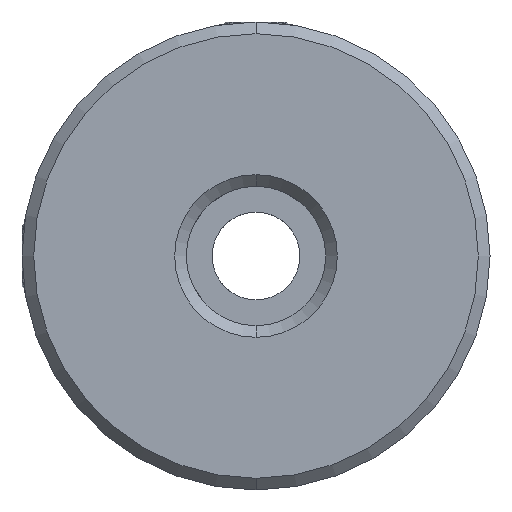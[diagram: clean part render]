
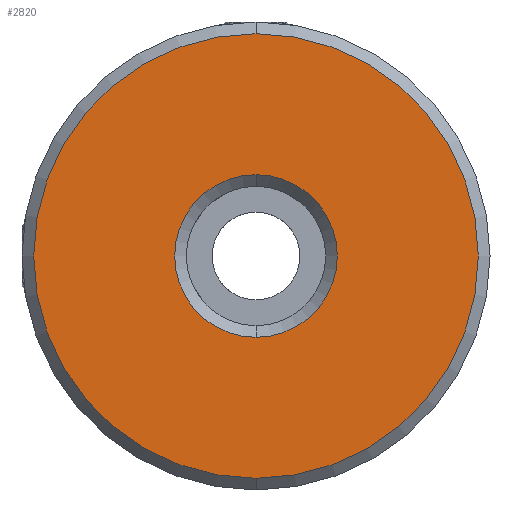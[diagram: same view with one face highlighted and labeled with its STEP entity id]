
A CAD part, front view. The second image highlights one B-rep face of the part: STEP entity #2820.
In plain terms, the highlighted planar face has unit normal (0, -1, 0).
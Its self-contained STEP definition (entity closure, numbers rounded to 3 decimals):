
#239 = DIRECTION ( 'NONE',  ( 0., 0., 1. ) ) ;
#245 = DIRECTION ( 'NONE',  ( 0., 1., 0. ) ) ;
#255 = CIRCLE ( 'NONE', #2714, 15.2 ) ;
#298 = CARTESIAN_POINT ( 'NONE',  ( -10.188, -0.277, 0.046 ) ) ;
#316 = DIRECTION ( 'NONE',  ( 0., 0., 1. ) ) ;
#403 = DIRECTION ( 'NONE',  ( 0., 1., 0. ) ) ;
#418 = ORIENTED_EDGE ( 'NONE', *, *, #1067, .T. ) ;
#482 = FACE_OUTER_BOUND ( 'NONE', #2389, .T. ) ;
#504 = CARTESIAN_POINT ( 'NONE',  ( -10.188, -0.277, 0.046 ) ) ;
#692 = DIRECTION ( 'NONE',  ( 0., -1., 0. ) ) ;
#708 = CARTESIAN_POINT ( 'NONE',  ( -10.188, -0.277, -5.517 ) ) ;
#905 = CARTESIAN_POINT ( 'NONE',  ( -10.188, -0.277, -15.154 ) ) ;
#1067 = EDGE_CURVE ( 'NONE', #1429, #1824, #2827, .T. ) ;
#1360 = CARTESIAN_POINT ( 'NONE',  ( -10.188, -0.277, 5.608 ) ) ;
#1429 = VERTEX_POINT ( 'NONE', #1360 ) ;
#1588 = DIRECTION ( 'NONE',  ( 0., 0., 1. ) ) ;
#1662 = FACE_BOUND ( 'NONE', #1756, .T. ) ;
#1756 = EDGE_LOOP ( 'NONE', ( #3708, #418 ) ) ;
#1812 = ORIENTED_EDGE ( 'NONE', *, *, #2527, .T. ) ;
#1824 = VERTEX_POINT ( 'NONE', #708 ) ;
#1911 = CIRCLE ( 'NONE', #2043, 5.562 ) ;
#2043 = AXIS2_PLACEMENT_3D ( 'NONE', #3027, #403, #1588 ) ;
#2150 = CIRCLE ( 'NONE', #3442, 15.2 ) ;
#2217 = CARTESIAN_POINT ( 'NONE',  ( -10.188, -0.277, 0.046 ) ) ;
#2252 = DIRECTION ( 'NONE',  ( 0., 1., 0. ) ) ;
#2302 = ORIENTED_EDGE ( 'NONE', *, *, #2937, .T. ) ;
#2389 = EDGE_LOOP ( 'NONE', ( #2302, #1812 ) ) ;
#2527 = EDGE_CURVE ( 'NONE', #3636, #2931, #255, .T. ) ;
#2567 = DIRECTION ( 'NONE',  ( 0., -1., 0. ) ) ;
#2714 = AXIS2_PLACEMENT_3D ( 'NONE', #2217, #2567, #239 ) ;
#2758 = AXIS2_PLACEMENT_3D ( 'NONE', #298, #245, #3757 ) ;
#2815 = PLANE ( 'NONE',  #3132 ) ;
#2820 = ADVANCED_FACE ( 'NONE', ( #482, #1662 ), #2815, .F. ) ;
#2827 = CIRCLE ( 'NONE', #2758, 5.562 ) ;
#2931 = VERTEX_POINT ( 'NONE', #3519 ) ;
#2937 = EDGE_CURVE ( 'NONE', #2931, #3636, #2150, .T. ) ;
#3027 = CARTESIAN_POINT ( 'NONE',  ( -10.188, -0.277, 0.046 ) ) ;
#3132 = AXIS2_PLACEMENT_3D ( 'NONE', #504, #2252, #3410 ) ;
#3304 = CARTESIAN_POINT ( 'NONE',  ( -10.188, -0.277, 0.046 ) ) ;
#3410 = DIRECTION ( 'NONE',  ( 0., 0., 1. ) ) ;
#3442 = AXIS2_PLACEMENT_3D ( 'NONE', #3304, #692, #316 ) ;
#3468 = EDGE_CURVE ( 'NONE', #1824, #1429, #1911, .T. ) ;
#3519 = CARTESIAN_POINT ( 'NONE',  ( -10.188, -0.277, 15.246 ) ) ;
#3636 = VERTEX_POINT ( 'NONE', #905 ) ;
#3708 = ORIENTED_EDGE ( 'NONE', *, *, #3468, .T. ) ;
#3757 = DIRECTION ( 'NONE',  ( 0., 0., 1. ) ) ;
